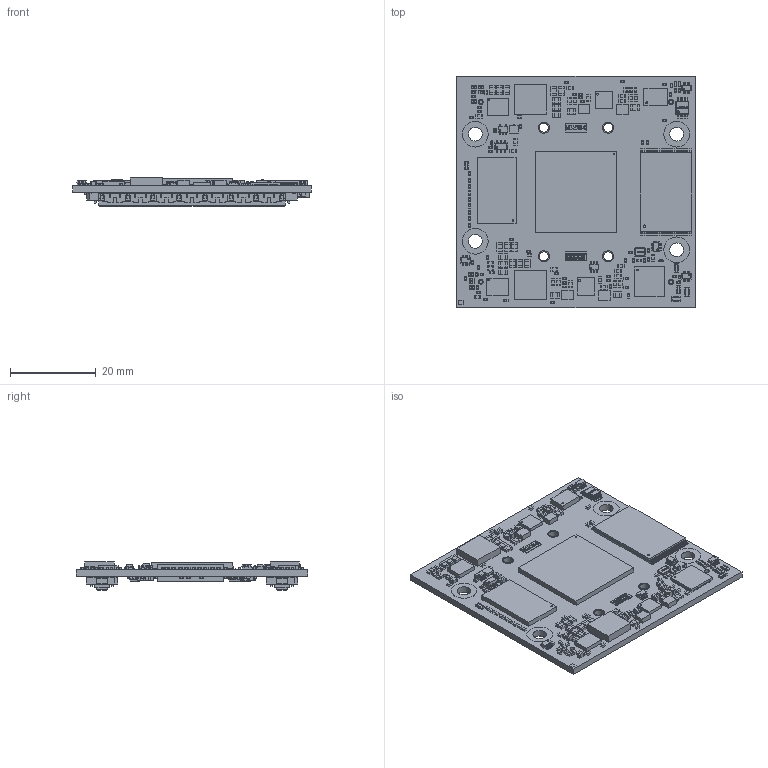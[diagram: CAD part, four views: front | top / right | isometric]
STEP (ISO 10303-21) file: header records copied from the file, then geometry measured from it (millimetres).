
FILE_DESCRIPTION(('Open CASCADE Model'),'2;1');
FILE_NAME('Open CASCADE Shape Model','2017-01-25T16:03:08',('Author'),( 'Open CASCADE'),'Open CASCADE STEP processor 6.8','Open CASCADE 6.8' ,'Unknown');
FILE_SCHEMA(('AUTOMOTIVE_DESIGN { 1 0 10303 214 1 1 1 1 }'));
Length unit declared in the file: millimetre
Products named in the file (429): --
Assembly tree (744 placements, depth 4):
  --
    --
    --
      --
    --
      --
    --
      --  x4
      --  x4
    --
      --  x4
      --  x4
    --
      --
    --
      --
    --
      --
    --
      --
        --
      --
        --
    --
      --
        --
      --
        --
    --
      --
        --
      --
        --
    --
      --
        --
        --  x3
        --
    --
      --
    --
      --
        --
      --
        --
    --
      --
        --
      --
        --
    --
      --
    --
      --
    --
      --
    --
      --
    --
      --
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Bounding box: 55.6 x 54 x 6.57 mm (x, y, z)
Volume: 7302.6 mm3; surface area: 14832.5 mm2
Topology: 878 solids, 878 shells, 14433 faces, 35165 edges, 23048 vertices
Faces by surface type: plane 12759, cylinder 823, bspline 795, sphere 48, cone 8
Full cylindrical faces by diameter (mm): 0.2 x6, 0.3 x2, 0.4 x7, 1.1 x2, 1.2 x2, 2.1 x12, 2.6 x4, 3.2 x12, 3.7 x4, 6 x4, 6.4 x4
Entity records: 504460 total; most frequent: CARTESIAN_POINT 178149, DIRECTION 50929, LINE 37443, VECTOR 37443, ORIENTED_EDGE 28842, PCURVE 28842, DEFINITIONAL_REPRESENTATION 28842, EDGE_CURVE 14421
